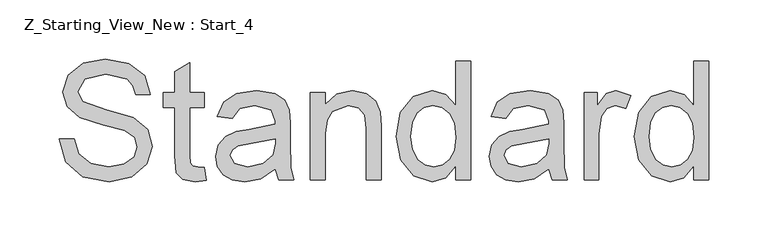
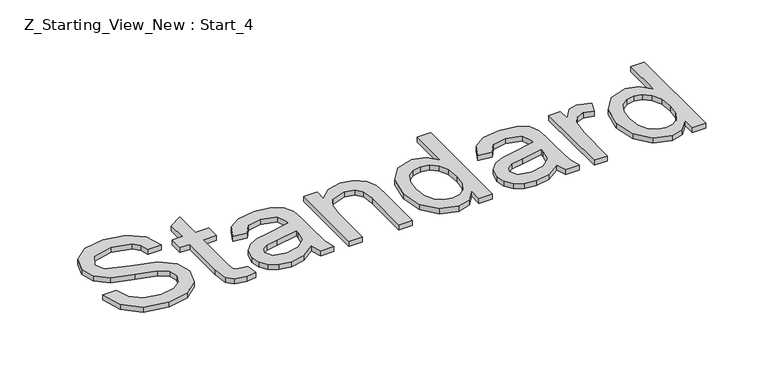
"""IFC4 building model written with IfcOpenShell, lengths in millimetres: pipe fitting geometry, Z_Starting_View_New : Start_4."""

from ifc_helpers import new_model, si_unit, origin, origin_with_axes, place, context, project, spatial, polyline, outline, extrude, source, transform, mapped, element, save


def z_starting_view_new_start_4_d8138100(model_context):
    return source(origin(), model_context, "Body", "SweptSolid", [
        extrude(outline(polyline([(22570.5619884, 7120.7857303), (22570.5619884, 7194.558333), (22583.1190271, 7194.558333), (22583.1190271, 7184.2576372), (22592.7207472, 7193.1603815), (22605.829609, 7196.1279629), (22617.6876719, 7193.7367299), (22625.7810758, 7187.4582105), (22629.5457349, 7178.2243724), (22630.2079225, 7166.0842666), (22630.2079225, 7120.7857303), (22617.6508837, 7120.7857303), (22617.6508837, 7164.3920094), (22616.2038812, 7175.5020457), (22611.0903215, 7181.3758949), (22602.4696201, 7183.5709241), (22588.8457235, 7178.6413054), (22584.5507012, 7171.4982633), (22583.1190271, 7159.9283746), (22583.1190271, 7120.7857303), (22570.5619884, 7120.7857303)])), origin_with_axes(), (0.0, 0.0, 1.0), 5.0),
        extrude(outline(polyline([(22358.6619591, 7155.3175869), (22371.2189979, 7155.3175869), (22375.2656999, 7142.7482854), (22385.1494628, 7134.8020343), (22400.2080991, 7131.7731392), (22413.3292236, 7134.0662703), (22421.8027722, 7140.3693151), (22424.5864127, 7148.7938128), (22422.501748, 7156.6296993), (22413.9668857, 7162.3318703), (22395.6831506, 7167.1265989), (22376.0014638, 7173.3192792), (22365.3206232, 7182.6634819), (22361.8012188, 7195.1469442), (22366.1544891, 7209.359452), (22378.8709434, 7219.3903677), (22397.4857724, 7222.8116703), (22417.3514001, 7219.2309522), (22430.5951519, 7208.7095271), (22435.5738216, 7192.9887032), (22423.0167828, 7192.9887032), (22420.711389, 7200.4812332), (22415.9043976, 7205.8890985), (22397.9762817, 7210.2546315), (22379.9991149, 7205.9381494), (22374.3582576, 7195.5148262), (22378.3559086, 7186.8082857), (22398.8591985, 7179.7940023), (22421.079271, 7173.4909574), (22433.2316396, 7163.3128889), (22437.1434514, 7149.1126439), (22432.6430284, 7134.0907958), (22419.6935821, 7123.1279123), (22400.6986085, 7119.2161004), (22378.2700695, 7123.4344806), (22364.0820872, 7136.1386722), (22358.6619591, 7155.3175869)])), origin_with_axes(), (0.0, 0.0, 1.0), 5.0),
        extrude(outline(polyline([(22481.0930871, 7131.2581044), (22482.662717, 7120.4178483), (22473.2694634, 7119.2161004), (22462.7480383, 7121.3007651), (22457.4995885, 7126.7699441), (22455.9790096, 7141.01924), (22455.9790096, 7182.0012943), (22446.5612305, 7182.0012943), (22446.5612305, 7194.558333), (22455.9790096, 7194.558333), (22455.9790096, 7212.4864489), (22468.5360484, 7219.8686143), (22468.5360484, 7194.558333), (22481.0930871, 7194.558333), (22481.0930871, 7182.0012943), (22468.5360484, 7182.0012943), (22468.5360484, 7141.387122), (22469.198236, 7134.9123989), (22471.3442143, 7132.6192678), (22475.6239081, 7131.7731392), (22481.0930871, 7131.2581044)])), origin_with_axes(), (0.0, 0.0, 1.0), 5.0),
        extrude(outline(polyline([(22540.7390213, 7130.2035093), (22528.5621272, 7121.6931725), (22515.109909, 7119.2161004), (22504.616075, 7120.7060225), (22496.8752247, 7125.1757887), (22492.1019558, 7131.9632116), (22490.5108662, 7140.4061033), (22492.9143619, 7150.3389172), (22499.2296695, 7157.5494043), (22508.0220492, 7161.6696827), (22518.8868308, 7163.5581436), (22540.6654449, 7167.8746256), (22540.7390213, 7170.6705288), (22537.2809305, 7179.9411551), (22523.3995166, 7183.5709241), (22510.695325, 7181.1551657), (22504.6375348, 7172.5835152), (22492.0804961, 7174.153145), (22497.5128868, 7186.4158782), (22508.4512448, 7193.6018398), (22525.0181974, 7196.1279629), (22540.2362492, 7193.8961454), (22548.8324252, 7188.2920764), (22552.6829234, 7179.7694768), (22553.2960601, 7168.7820679), (22553.2960601, 7153.1593458), (22553.9337222, 7131.3439435), (22556.4353197, 7120.7857303), (22543.878281, 7120.7857303), (22540.7390213, 7130.2035093)]), holes=[polyline([(22540.7390213, 7155.3175869), (22520.4809861, 7151.4670887), (22509.6775182, 7149.431475), (22504.7846876, 7146.120537), (22503.067905, 7141.2890201), (22506.8080386, 7134.495466), (22517.7831848, 7131.7731392), (22530.4873764, 7134.7775088), (22538.6788821, 7142.0493096), (22540.6654449, 7151.7613943), (22540.7390213, 7155.3175869)])]), origin_with_axes(), (0.0, 0.0, 1.0), 5.0),
        extrude(outline(polyline([(22692.9931164, 7120.7857303), (22692.9931164, 7132.6315305), (22684.6851146, 7122.5699579), (22673.201065, 7119.2161004), (22657.6519193, 7124.0721428), (22646.6645104, 7137.6224629), (22642.7649613, 7157.5984553), (22646.3579421, 7177.5867103), (22657.1246218, 7191.3454969), (22673.1520141, 7196.1279629), (22684.7280342, 7192.7066603), (22692.9931164, 7183.8161788), (22692.9931164, 7221.2420404), (22705.5501551, 7221.2420404), (22705.5501551, 7120.7857303), (22692.9931164, 7120.7857303)]), holes=[polyline([(22655.322, 7157.6475062), (22656.7383457, 7146.2891496), (22660.9873828, 7138.2110741), (22667.1616689, 7133.3826229), (22674.3537619, 7131.7731392), (22681.5427893, 7133.3090465), (22687.5607256, 7137.9167685), (22691.6350187, 7145.6821443), (22692.9931164, 7156.691013), (22691.6104932, 7168.7268856), (22687.4626237, 7177.0716755), (22681.2914032, 7181.946112), (22673.8387271, 7183.5709241), (22666.5730577, 7182.0104913), (22660.6195008, 7177.3291929), (22656.6463752, 7169.2879056), (22655.322, 7157.6475062)])]), origin_with_axes(), (0.0, 0.0, 1.0), 5.0),
        extrude(outline(polyline([(22771.4746087, 7130.2035093), (22759.2977146, 7121.6931725), (22745.8454963, 7119.2161004), (22735.3516624, 7120.7060225), (22727.6108121, 7125.1757887), (22722.8375432, 7131.9632116), (22721.2464536, 7140.4061033), (22723.6499493, 7150.3389172), (22729.9652569, 7157.5494043), (22738.7576366, 7161.6696827), (22749.6224181, 7163.5581436), (22771.4010323, 7167.8746256), (22771.4746087, 7170.6705288), (22768.0165179, 7179.9411551), (22754.135104, 7183.5709241), (22741.4309124, 7181.1551657), (22735.3731222, 7172.5835152), (22722.8160834, 7174.153145), (22728.2484742, 7186.4158782), (22739.1868322, 7193.6018398), (22755.7537847, 7196.1279629), (22770.9718366, 7193.8961454), (22779.5680126, 7188.2920764), (22783.4185108, 7179.7694768), (22784.0316474, 7168.7820679), (22784.0316474, 7153.1593458), (22784.6693096, 7131.3439435), (22787.1709071, 7120.7857303), (22774.6138683, 7120.7857303), (22771.4746087, 7130.2035093)]), holes=[polyline([(22771.4746087, 7155.3175869), (22751.2165735, 7151.4670887), (22740.4131055, 7149.431475), (22735.520275, 7146.120537), (22733.8034924, 7141.2890201), (22737.543626, 7134.495466), (22748.5187722, 7131.7731392), (22761.2229637, 7134.7775088), (22769.4144695, 7142.0493096), (22771.4010323, 7151.7613943), (22771.4746087, 7155.3175869)])]), origin_with_axes(), (0.0, 0.0, 1.0), 5.0),
        extrude(outline(polyline([(22801.2975757, 7120.7857303), (22801.2975757, 7194.558333), (22812.2849847, 7194.558333), (22812.2849847, 7183.6445005), (22820.084083, 7193.6999417), (22827.9322322, 7196.1279629), (22840.5383219, 7192.2529392), (22836.3444671, 7180.9957501), (22827.5152993, 7183.5709241), (22820.4151767, 7181.093852), (22815.8902282, 7174.2267214), (22813.8546145, 7159.5604926), (22813.8546145, 7120.7857303), (22801.2975757, 7120.7857303)])), origin_with_axes(), (0.0, 0.0, 1.0), 5.0),
        extrude(outline(polyline([(22893.9057367, 7120.7857303), (22893.9057367, 7132.6315305), (22885.5977349, 7122.5699579), (22874.1136853, 7119.2161004), (22858.5645396, 7124.0721428), (22847.5771307, 7137.6224629), (22843.6775816, 7157.5984553), (22847.2705624, 7177.5867103), (22858.0372421, 7191.3454969), (22874.0646344, 7196.1279629), (22885.6406545, 7192.7066603), (22893.9057367, 7183.8161788), (22893.9057367, 7221.2420404), (22906.4627754, 7221.2420404), (22906.4627754, 7120.7857303), (22893.9057367, 7120.7857303)]), holes=[polyline([(22856.2346203, 7157.6475062), (22857.650966, 7146.2891496), (22861.9000031, 7138.2110741), (22868.0742892, 7133.3826229), (22875.2663822, 7131.7731392), (22882.4554096, 7133.3090465), (22888.4733459, 7137.9167685), (22892.547639, 7145.6821443), (22893.9057367, 7156.691013), (22892.5231135, 7168.7268856), (22888.375244, 7177.0716755), (22882.2040235, 7181.946112), (22874.7513474, 7183.5709241), (22867.485678, 7182.0104913), (22861.5321211, 7177.3291929), (22857.5589955, 7169.2879056), (22856.2346203, 7157.6475062)])]), origin_with_axes(), (0.0, 0.0, 1.0), 5.0),
    ])


if __name__ == "__main__":
    model = new_model("IFC4")
    model_context = context("Model", 3, world=origin())
    ifc_project = project(units=[si_unit("LENGTHUNIT", "METRE", prefix="MILLI")], contexts=[model_context])
    site = spatial("IfcSite", under=ifc_project)
    building = spatial("IfcBuilding", under=site)
    placement = place(None, origin())
    z_starting_view_new_start_4_shape = z_starting_view_new_start_4_d8138100(model_context)
    element("IfcPipeFitting", 1, ObjectType="Z_Starting_View_New : Start_4", at=placement, inside=building, context=model_context, shape_type="MappedRepresentation", body=[
        mapped(z_starting_view_new_start_4_shape, transform((0.0, 0.0, 0.0), x_axis=(1.0, 0.0, 0.0), y_axis=(0.0, 1.0, 0.0), z_axis=(0.0, 0.0, 1.0))),
    ])
    save(model, "model.ifc")
